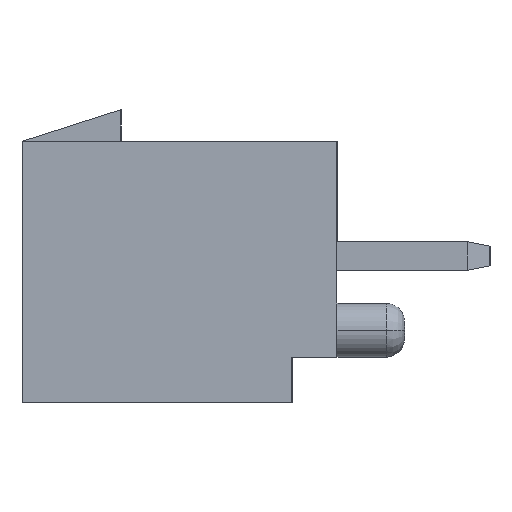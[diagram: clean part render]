
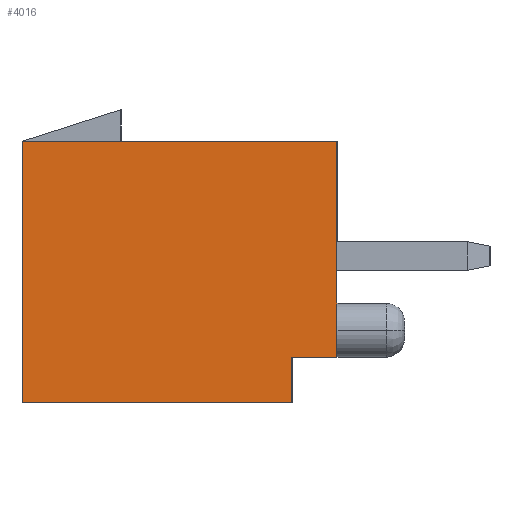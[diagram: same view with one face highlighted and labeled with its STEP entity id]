
A CAD part, left-side view. The second image highlights one B-rep face of the part: STEP entity #4016.
In plain terms, the highlighted planar face has unit normal (-1, 0, 0).
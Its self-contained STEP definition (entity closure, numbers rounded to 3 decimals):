
#2372=CARTESIAN_POINT('Vertex',(-15.,7.,0.)) ;
#2375=CARTESIAN_POINT('Line Origine',(-15.,7.,2.9)) ;
#2379=CARTESIAN_POINT('Vertex',(-15.,7.,5.8)) ;
#2531=CARTESIAN_POINT('Line Origine',(-15.,3.5,5.8)) ;
#2535=CARTESIAN_POINT('Vertex',(-15.,0.,5.8)) ;
#3977=CARTESIAN_POINT('Axis2P3D Location',(-15.,0.,0.)) ;
#3982=CARTESIAN_POINT('Line Origine',(-15.,0.,3.4)) ;
#3986=CARTESIAN_POINT('Vertex',(-15.,0.,1.)) ;
#3989=CARTESIAN_POINT('Line Origine',(-15.,4.,0.)) ;
#3993=CARTESIAN_POINT('Vertex',(-15.,1.,0.)) ;
#3996=CARTESIAN_POINT('Line Origine',(-15.,1.,0.5)) ;
#4000=CARTESIAN_POINT('Vertex',(-15.,1.,1.)) ;
#4003=CARTESIAN_POINT('Line Origine',(-15.,0.5,1.)) ;
#2376=DIRECTION('Vector Direction',(0.,0.,1.)) ;
#2532=DIRECTION('Vector Direction',(0.,-1.,0.)) ;
#3978=DIRECTION('Axis2P3D Direction',(-1.,0.,0.)) ;
#3979=DIRECTION('Axis2P3D XDirection',(0.,0.,1.)) ;
#3983=DIRECTION('Vector Direction',(0.,0.,-1.)) ;
#3990=DIRECTION('Vector Direction',(0.,1.,0.)) ;
#3997=DIRECTION('Vector Direction',(0.,0.,-1.)) ;
#4004=DIRECTION('Vector Direction',(0.,1.,0.)) ;
#3980=AXIS2_PLACEMENT_3D('Plane Axis2P3D',#3977,#3978,#3979) ;
#4009=ORIENTED_EDGE('',*,*,#3988,.T.) ;
#4010=ORIENTED_EDGE('',*,*,#2537,.T.) ;
#4011=ORIENTED_EDGE('',*,*,#2381,.T.) ;
#4012=ORIENTED_EDGE('',*,*,#3995,.T.) ;
#4013=ORIENTED_EDGE('',*,*,#4002,.T.) ;
#4014=ORIENTED_EDGE('',*,*,#4007,.T.) ;
#2377=VECTOR('Line Direction',#2376,1.) ;
#2533=VECTOR('Line Direction',#2532,1.) ;
#3984=VECTOR('Line Direction',#3983,1.) ;
#3991=VECTOR('Line Direction',#3990,1.) ;
#3998=VECTOR('Line Direction',#3997,1.) ;
#4005=VECTOR('Line Direction',#4004,1.) ;
#4016=ADVANCED_FACE('\X2\96F64EF651E04F554F53\X0\',(#4015),#3981,.T.) ;
#2381=EDGE_CURVE('',#2380,#2373,#2378,.F.) ;
#2537=EDGE_CURVE('',#2536,#2380,#2534,.F.) ;
#3988=EDGE_CURVE('',#3987,#2536,#3985,.F.) ;
#3995=EDGE_CURVE('',#2373,#3994,#3992,.F.) ;
#4002=EDGE_CURVE('',#3994,#4001,#3999,.F.) ;
#4007=EDGE_CURVE('',#4001,#3987,#4006,.F.) ;
#4008=EDGE_LOOP('',(#4009,#4010,#4011,#4012,#4013,#4014)) ;
#4015=FACE_OUTER_BOUND('',#4008,.T.) ;
#2378=LINE('Line',#2375,#2377) ;
#2534=LINE('Line',#2531,#2533) ;
#3985=LINE('Line',#3982,#3984) ;
#3992=LINE('Line',#3989,#3991) ;
#3999=LINE('Line',#3996,#3998) ;
#4006=LINE('Line',#4003,#4005) ;
#3981=PLANE('Plane',#3980) ;
#2373=VERTEX_POINT('',#2372) ;
#2380=VERTEX_POINT('',#2379) ;
#2536=VERTEX_POINT('',#2535) ;
#3987=VERTEX_POINT('',#3986) ;
#3994=VERTEX_POINT('',#3993) ;
#4001=VERTEX_POINT('',#4000) ;
